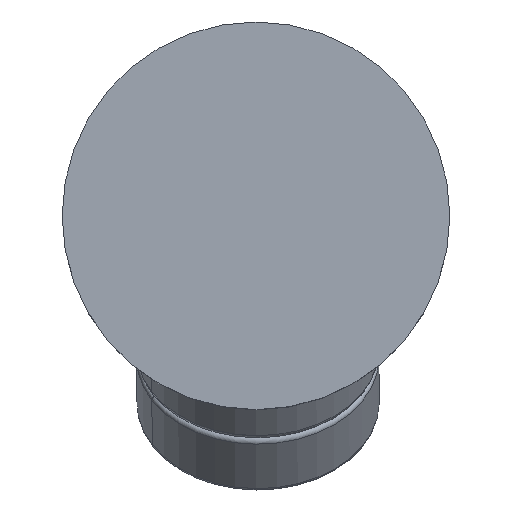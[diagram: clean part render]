
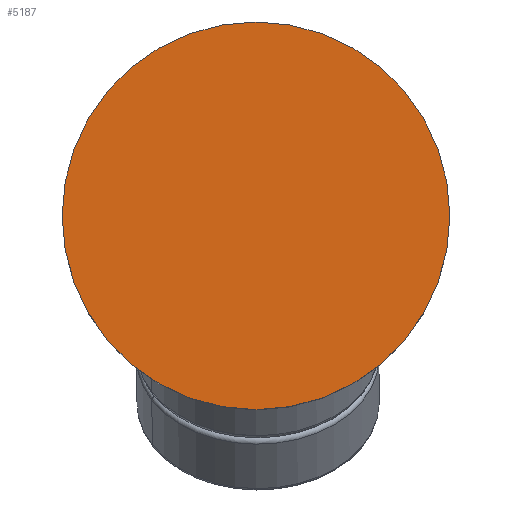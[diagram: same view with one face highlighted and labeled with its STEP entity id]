
A CAD part, top view. The second image highlights one B-rep face of the part: STEP entity #5187.
In plain terms, the highlighted planar face has unit normal (0, 0, 1).
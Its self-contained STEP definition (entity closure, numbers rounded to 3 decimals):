
#12 = DIRECTION ( 'NONE',  ( 1., 0., 0. ) ) ;
#97 = CIRCLE ( 'NONE', #2385, 40. ) ;
#982 = AXIS2_PLACEMENT_3D ( 'NONE', #4557, #2972, #2162 ) ;
#1343 = CARTESIAN_POINT ( 'NONE',  ( -39.638, 5.942, 137.5 ) ) ;
#1491 = FACE_OUTER_BOUND ( 'NONE', #3443, .T. ) ;
#1654 = VERTEX_POINT ( 'NONE', #3478 ) ;
#1782 = AXIS2_PLACEMENT_3D ( 'NONE', #4786, #4036, #12 ) ;
#1866 = EDGE_CURVE ( 'NONE', #2220, #1654, #97, .T. ) ;
#2159 = EDGE_CURVE ( 'NONE', #1654, #2220, #2610, .T. ) ;
#2162 = DIRECTION ( 'NONE',  ( 1., 0., 0. ) ) ;
#2220 = VERTEX_POINT ( 'NONE', #1343 ) ;
#2385 = AXIS2_PLACEMENT_3D ( 'NONE', #3060, #4772, #2682 ) ;
#2610 = CIRCLE ( 'NONE', #982, 40. ) ;
#2682 = DIRECTION ( 'NONE',  ( 1., 0., 0. ) ) ;
#2972 = DIRECTION ( 'NONE',  ( 0., 0., 1. ) ) ;
#3060 = CARTESIAN_POINT ( 'NONE',  ( 0.362, 5.942, 137.5 ) ) ;
#3132 = PLANE ( 'NONE',  #1782 ) ;
#3443 = EDGE_LOOP ( 'NONE', ( #4708, #3650 ) ) ;
#3478 = CARTESIAN_POINT ( 'NONE',  ( 40.362, 5.942, 137.5 ) ) ;
#3650 = ORIENTED_EDGE ( 'NONE', *, *, #2159, .T. ) ;
#4036 = DIRECTION ( 'NONE',  ( 0., 0., 1. ) ) ;
#4557 = CARTESIAN_POINT ( 'NONE',  ( 0.362, 5.942, 137.5 ) ) ;
#4708 = ORIENTED_EDGE ( 'NONE', *, *, #1866, .T. ) ;
#4772 = DIRECTION ( 'NONE',  ( 0., 0., 1. ) ) ;
#4786 = CARTESIAN_POINT ( 'NONE',  ( 0.362, 5.942, 137.5 ) ) ;
#5187 = ADVANCED_FACE ( 'NONE', ( #1491 ), #3132, .T. ) ;
